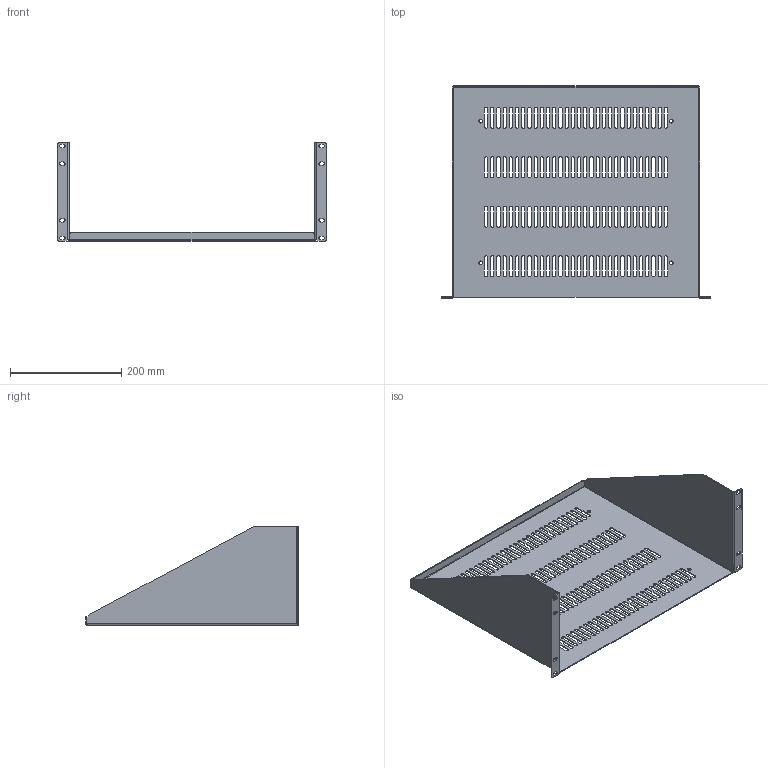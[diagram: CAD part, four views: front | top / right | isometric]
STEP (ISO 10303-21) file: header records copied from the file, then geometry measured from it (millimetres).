
FILE_DESCRIPTION( ( 'Unknown' ), '1' );
FILE_NAME( 'Q:/ACCESSORIES/SHELVES/RK _ RMA/WEB DRAWINGS/STEP/RASV190715.stp', 'Unknown', ( 'Unknown' ), ( 'Unknown' ), 'PSStep 10.1', 'Unknown', ' ' );
FILE_SCHEMA( ( 'AUTOMOTIVE_DESIGN { 1 0 10303 214 1 1 1 1 }' ) );
Length unit declared in the file: millimetre
Products named in the file (1): 1
Bounding box: 482.75 x 381 x 176.99 mm (x, y, z)
Volume: 435661.4 mm3; surface area: 499254.8 mm2
Topology: 1 solids, 1 shells, 580 faces, 1718 edges, 1140 vertices
Faces by surface type: plane 296, cylinder 280, bspline 4
Full cylindrical faces by diameter (mm): 6.35 x4
Entity records: 20245 total; most frequent: CARTESIAN_POINT 3723, ORIENTED_EDGE 3420, DIRECTION 3404, EDGE_CURVE 1710, AXIS2_PLACEMENT_3D 1137, VERTEX_POINT 1136, LINE 1130, VECTOR 1130
